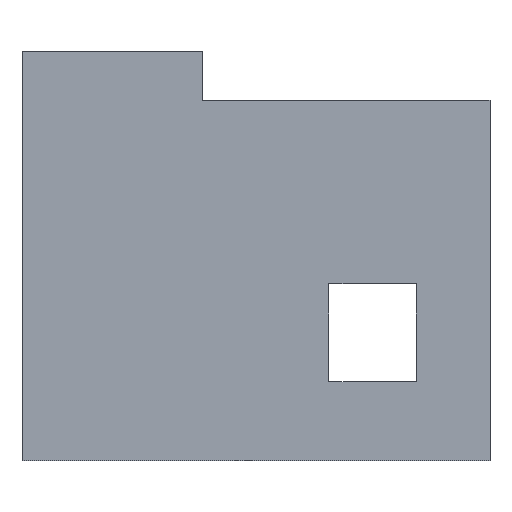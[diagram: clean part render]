
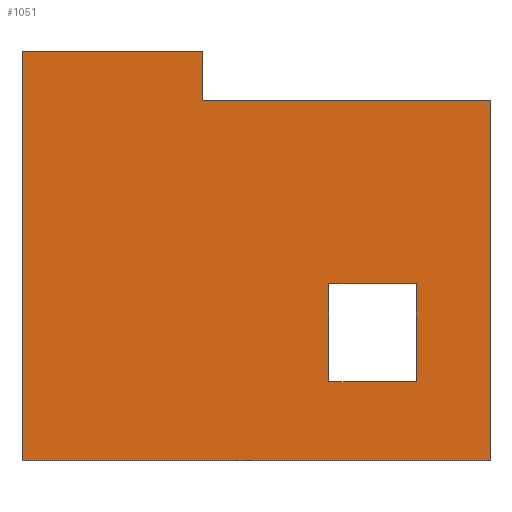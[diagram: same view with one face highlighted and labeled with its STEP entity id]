
A CAD part, left-side view. The second image highlights one B-rep face of the part: STEP entity #1051.
In plain terms, the highlighted planar face has unit normal (-1, 0, 0).
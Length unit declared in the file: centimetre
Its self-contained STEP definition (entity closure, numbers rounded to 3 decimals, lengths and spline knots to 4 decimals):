
#9 = DIRECTION ( 'NONE',  ( 1., 0., 0. ) ) ;
#54 = VECTOR ( 'NONE', #848, 100. ) ;
#55 = DIRECTION ( 'NONE',  ( 0., -1., 0. ) ) ;
#83 = CARTESIAN_POINT ( 'NONE',  ( 0., 157.8032, 169.5722 ) ) ;
#84 = DIRECTION ( 'NONE',  ( 0., 1., 0. ) ) ;
#92 = VECTOR ( 'NONE', #611, 100. ) ;
#129 = VECTOR ( 'NONE', #862, 100. ) ;
#142 = ORIENTED_EDGE ( 'NONE', *, *, #608, .F. ) ;
#144 = ORIENTED_EDGE ( 'NONE', *, *, #368, .T. ) ;
#151 = CARTESIAN_POINT ( 'NONE',  ( 0., 0., 770.8457 ) ) ;
#158 = CARTESIAN_POINT ( 'NONE',  ( 0., 1000., 875.8713 ) ) ;
#162 = EDGE_CURVE ( 'NONE', #983, #746, #393, .T. ) ;
#168 = EDGE_CURVE ( 'NONE', #962, #987, #747, .T. ) ;
#177 = LINE ( 'NONE', #529, #588 ) ;
#190 = ORIENTED_EDGE ( 'NONE', *, *, #504, .F. ) ;
#247 = CARTESIAN_POINT ( 'NONE',  ( 0., 344.0755, 169.5722 ) ) ;
#250 = CARTESIAN_POINT ( 'NONE',  ( 0., 1000., 1000. ) ) ;
#265 = CARTESIAN_POINT ( 'NONE',  ( 0., 1000., 1000. ) ) ;
#267 = LINE ( 'NONE', #863, #402 ) ;
#294 = CARTESIAN_POINT ( 'NONE',  ( 0., 157.8032, 169.5722 ) ) ;
#344 = FACE_OUTER_BOUND ( 'NONE', #1074, .T. ) ;
#359 = CARTESIAN_POINT ( 'NONE',  ( 0., 1000., 0. ) ) ;
#366 = VECTOR ( 'NONE', #498, 100. ) ;
#368 = EDGE_CURVE ( 'NONE', #746, #847, #1024, .T. ) ;
#393 = LINE ( 'NONE', #482, #1031 ) ;
#398 = DIRECTION ( 'NONE',  ( 0., 1., 0. ) ) ;
#402 = VECTOR ( 'NONE', #84, 100. ) ;
#429 = LINE ( 'NONE', #925, #54 ) ;
#464 = CARTESIAN_POINT ( 'NONE',  ( 0., 344.0755, 378.6634 ) ) ;
#465 = VERTEX_POINT ( 'NONE', #247 ) ;
#482 = CARTESIAN_POINT ( 'NONE',  ( 0., 221.4648, 875.8713 ) ) ;
#489 = LINE ( 'NONE', #837, #582 ) ;
#498 = DIRECTION ( 'NONE',  ( 0., -1., 0. ) ) ;
#504 = EDGE_CURVE ( 'NONE', #551, #465, #544, .T. ) ;
#524 = VECTOR ( 'NONE', #804, 100. ) ;
#529 = CARTESIAN_POINT ( 'NONE',  ( 0., 615.1694, 770.8457 ) ) ;
#530 = DIRECTION ( 'NONE',  ( 0., 0., -1. ) ) ;
#538 = ORIENTED_EDGE ( 'NONE', *, *, #632, .F. ) ;
#544 = LINE ( 'NONE', #967, #524 ) ;
#551 = VERTEX_POINT ( 'NONE', #464 ) ;
#565 = CARTESIAN_POINT ( 'NONE',  ( 0., 157.8032, 169.5722 ) ) ;
#582 = VECTOR ( 'NONE', #55, 100. ) ;
#584 = CARTESIAN_POINT ( 'NONE',  ( 0., 157.8032, 378.6634 ) ) ;
#588 = VECTOR ( 'NONE', #626, 100. ) ;
#596 = ORIENTED_EDGE ( 'NONE', *, *, #168, .F. ) ;
#608 = EDGE_CURVE ( 'NONE', #972, #753, #177, .T. ) ;
#611 = DIRECTION ( 'NONE',  ( 0., 0., -1. ) ) ;
#612 = VECTOR ( 'NONE', #613, 100. ) ;
#613 = DIRECTION ( 'NONE',  ( 0., 0., -1. ) ) ;
#615 = CARTESIAN_POINT ( 'NONE',  ( 0., 0., 0. ) ) ;
#626 = DIRECTION ( 'NONE',  ( 0., -1., 0. ) ) ;
#627 = PLANE ( 'NONE',  #694 ) ;
#632 = EDGE_CURVE ( 'NONE', #465, #962, #1084, .T. ) ;
#678 = CARTESIAN_POINT ( 'NONE',  ( 0., 615.1694, 875.8713 ) ) ;
#694 = AXIS2_PLACEMENT_3D ( 'NONE', #265, #9, #530 ) ;
#703 = CARTESIAN_POINT ( 'NONE',  ( 0., 0., 1000. ) ) ;
#730 = ORIENTED_EDGE ( 'NONE', *, *, #814, .F. ) ;
#746 = VERTEX_POINT ( 'NONE', #158 ) ;
#747 = LINE ( 'NONE', #83, #129 ) ;
#753 = VERTEX_POINT ( 'NONE', #151 ) ;
#781 = LINE ( 'NONE', #703, #92 ) ;
#786 = FACE_BOUND ( 'NONE', #807, .T. ) ;
#795 = EDGE_CURVE ( 'NONE', #753, #1025, #781, .T. ) ;
#804 = DIRECTION ( 'NONE',  ( 0., 0., -1. ) ) ;
#807 = EDGE_LOOP ( 'NONE', ( #596, #538, #190, #730 ) ) ;
#814 = EDGE_CURVE ( 'NONE', #987, #551, #267, .T. ) ;
#837 = CARTESIAN_POINT ( 'NONE',  ( 0., 1000., 0. ) ) ;
#847 = VERTEX_POINT ( 'NONE', #359 ) ;
#848 = DIRECTION ( 'NONE',  ( 0., 0., -1. ) ) ;
#862 = DIRECTION ( 'NONE',  ( 0., 0., 1. ) ) ;
#863 = CARTESIAN_POINT ( 'NONE',  ( 0., 157.8032, 378.6634 ) ) ;
#920 = EDGE_CURVE ( 'NONE', #847, #1025, #489, .T. ) ;
#925 = CARTESIAN_POINT ( 'NONE',  ( 0., 615.1694, 770.8457 ) ) ;
#962 = VERTEX_POINT ( 'NONE', #294 ) ;
#967 = CARTESIAN_POINT ( 'NONE',  ( 0., 344.0755, 169.5722 ) ) ;
#968 = ORIENTED_EDGE ( 'NONE', *, *, #795, .F. ) ;
#972 = VERTEX_POINT ( 'NONE', #1108 ) ;
#983 = VERTEX_POINT ( 'NONE', #678 ) ;
#987 = VERTEX_POINT ( 'NONE', #584 ) ;
#988 = EDGE_CURVE ( 'NONE', #983, #972, #429, .T. ) ;
#1005 = ORIENTED_EDGE ( 'NONE', *, *, #920, .T. ) ;
#1024 = LINE ( 'NONE', #250, #612 ) ;
#1025 = VERTEX_POINT ( 'NONE', #615 ) ;
#1031 = VECTOR ( 'NONE', #398, 100. ) ;
#1051 = ADVANCED_FACE ( 'NONE', ( #786, #344 ), #627, .F. ) ;
#1055 = ORIENTED_EDGE ( 'NONE', *, *, #162, .T. ) ;
#1072 = ORIENTED_EDGE ( 'NONE', *, *, #988, .F. ) ;
#1074 = EDGE_LOOP ( 'NONE', ( #968, #142, #1072, #1055, #144, #1005 ) ) ;
#1084 = LINE ( 'NONE', #565, #366 ) ;
#1108 = CARTESIAN_POINT ( 'NONE',  ( 0., 615.1694, 770.8457 ) ) ;
